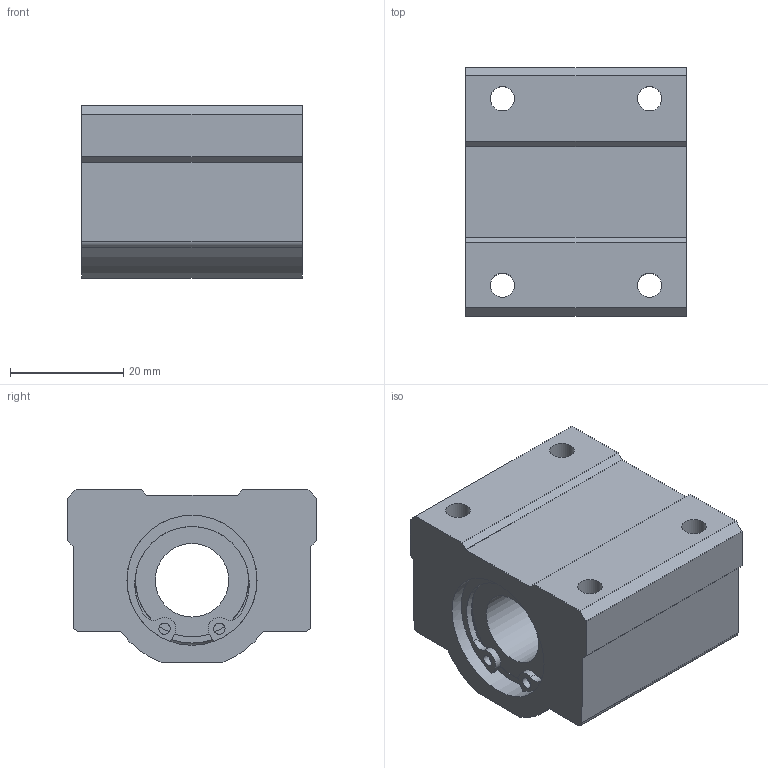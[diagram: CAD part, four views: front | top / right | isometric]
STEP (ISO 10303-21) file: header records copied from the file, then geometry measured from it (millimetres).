
FILE_DESCRIPTION((''),'2;1');
FILE_NAME('D:\製品 (図面)\カタログ用3D\リニアベアリング関連(改)\STEP形式\LH\LH13.stp','2010-01-25T10:15:19',('Tsuchiya'),(''),'Autodesk Inventor 10','Autodesk Inventor 10','');
FILE_SCHEMA(('AUTOMOTIVE_DESIGN { 1 0 10303 214 1 1 1 1 }'));
Length unit declared in the file: millimetre
Products named in the file (1): LH13
Bounding box: 39 x 44 x 30.5 mm (x, y, z)
Volume: 36606.3 mm3; surface area: 11451.9 mm2
Topology: 1 solids, 3 shells, 81 faces, 223 edges, 142 vertices
Faces by surface type: plane 41, cylinder 20, bspline 18, torus 2
Full cylindrical faces by diameter (mm): 2 x2, 13 x1, 20 x2, 22 x2, 23 x4
Entity records: 2548 total; most frequent: CARTESIAN_POINT 598, DIRECTION 416, ORIENTED_EDGE 368, EDGE_CURVE 184, AXIS2_PLACEMENT_3D 168, VERTEX_POINT 124, EDGE_LOOP 122, CIRCLE 104
